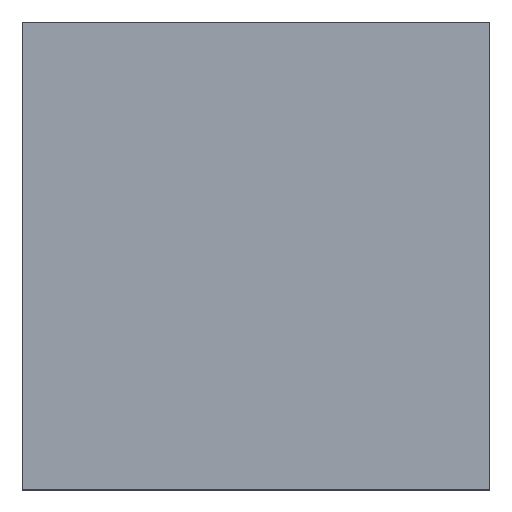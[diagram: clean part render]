
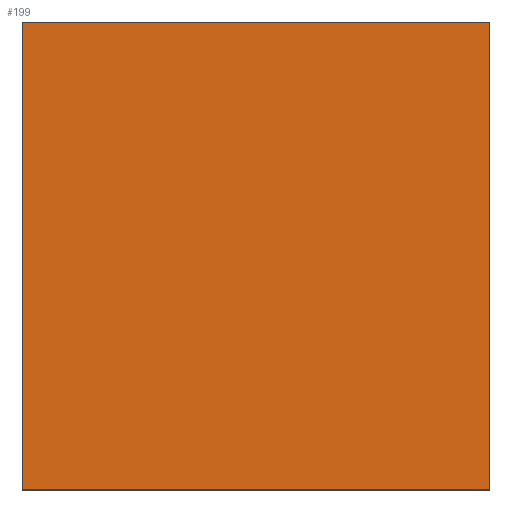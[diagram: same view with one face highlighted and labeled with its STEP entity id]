
A CAD part, top view. The second image highlights one B-rep face of the part: STEP entity #199.
In plain terms, the highlighted planar face has unit normal (0, 0, 1).
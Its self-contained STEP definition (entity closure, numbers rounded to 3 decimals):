
#63=CARTESIAN_POINT('Vertex',(0.,0.,-42.55)) ;
#77=CARTESIAN_POINT('Vertex',(450.,0.,-42.55)) ;
#80=CARTESIAN_POINT('Line Origine',(225.,0.,-42.55)) ;
#108=CARTESIAN_POINT('Vertex',(450.,450.,-42.55)) ;
#111=CARTESIAN_POINT('Line Origine',(450.,225.,-42.55)) ;
#139=CARTESIAN_POINT('Vertex',(0.,450.,-42.55)) ;
#142=CARTESIAN_POINT('Line Origine',(225.,450.,-42.55)) ;
#164=CARTESIAN_POINT('Line Origine',(0.,225.,-42.55)) ;
#188=CARTESIAN_POINT('Axis2P3D Location',(0.,0.,-42.55)) ;
#81=DIRECTION('Vector Direction',(1.,0.,0.)) ;
#112=DIRECTION('Vector Direction',(0.,1.,0.)) ;
#143=DIRECTION('Vector Direction',(-1.,0.,0.)) ;
#165=DIRECTION('Vector Direction',(0.,-1.,0.)) ;
#189=DIRECTION('Axis2P3D Direction',(0.,0.,1.)) ;
#190=DIRECTION('Axis2P3D XDirection',(1.,0.,0.)) ;
#191=AXIS2_PLACEMENT_3D('Plane Axis2P3D',#188,#189,#190) ;
#194=ORIENTED_EDGE('',*,*,#84,.T.) ;
#195=ORIENTED_EDGE('',*,*,#115,.T.) ;
#196=ORIENTED_EDGE('',*,*,#146,.T.) ;
#197=ORIENTED_EDGE('',*,*,#168,.T.) ;
#82=VECTOR('Line Direction',#81,1.) ;
#113=VECTOR('Line Direction',#112,1.) ;
#144=VECTOR('Line Direction',#143,1.) ;
#166=VECTOR('Line Direction',#165,1.) ;
#199=ADVANCED_FACE('Hauptk\X2\00F6\X0\rper',(#198),#192,.T.) ;
#84=EDGE_CURVE('',#64,#78,#83,.T.) ;
#115=EDGE_CURVE('',#78,#109,#114,.T.) ;
#146=EDGE_CURVE('',#109,#140,#145,.T.) ;
#168=EDGE_CURVE('',#140,#64,#167,.T.) ;
#193=EDGE_LOOP('',(#194,#195,#196,#197)) ;
#198=FACE_OUTER_BOUND('',#193,.T.) ;
#83=LINE('Line',#80,#82) ;
#114=LINE('Line',#111,#113) ;
#145=LINE('Line',#142,#144) ;
#167=LINE('Line',#164,#166) ;
#192=PLANE('',#191) ;
#64=VERTEX_POINT('',#63) ;
#78=VERTEX_POINT('',#77) ;
#109=VERTEX_POINT('',#108) ;
#140=VERTEX_POINT('',#139) ;
